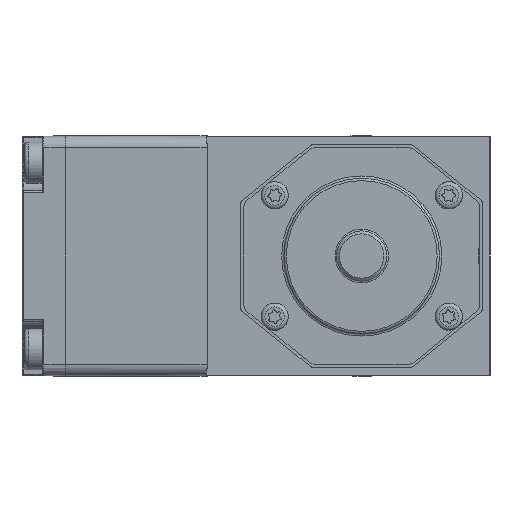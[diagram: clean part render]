
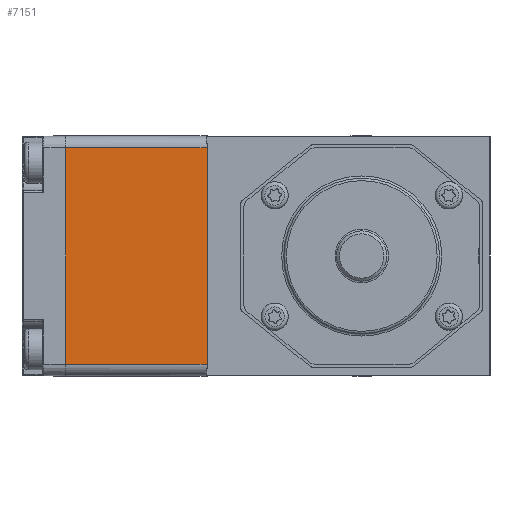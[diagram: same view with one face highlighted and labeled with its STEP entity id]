
A CAD part, left-side view. The second image highlights one B-rep face of the part: STEP entity #7151.
In plain terms, the highlighted planar face has unit normal (-1, 0, 0).
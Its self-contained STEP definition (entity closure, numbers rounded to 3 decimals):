
#2926 = VERTEX_POINT ( 'NONE', #6481 ) ;
#3767 = LINE ( 'NONE', #27675, #19655 ) ;
#4023 = VECTOR ( 'NONE', #12543, 1000. ) ;
#4638 = VECTOR ( 'NONE', #25391, 1000. ) ;
#5545 = CARTESIAN_POINT ( 'NONE',  ( -24.35, 38.1, 13.95 ) ) ;
#6481 = CARTESIAN_POINT ( 'NONE',  ( -24.35, 38.1, -13.95 ) ) ;
#6608 = EDGE_CURVE ( 'NONE', #13320, #10177, #3767, .T. ) ;
#7151 = ADVANCED_FACE ( 'NONE', ( #14576 ), #8381, .F. ) ;
#7651 = EDGE_CURVE ( 'NONE', #14836, #2926, #11492, .T. ) ;
#7706 = ORIENTED_EDGE ( 'NONE', *, *, #22198, .F. ) ;
#8381 = PLANE ( 'NONE',  #19990 ) ;
#8726 = ORIENTED_EDGE ( 'NONE', *, *, #6608, .F. ) ;
#10177 = VERTEX_POINT ( 'NONE', #19828 ) ;
#11072 = LINE ( 'NONE', #23226, #4638 ) ;
#11492 = LINE ( 'NONE', #23205, #21635 ) ;
#12543 = DIRECTION ( 'NONE',  ( 0., 1., 0. ) ) ;
#12711 = DIRECTION ( 'NONE',  ( 0., 1., 0. ) ) ;
#13320 = VERTEX_POINT ( 'NONE', #18993 ) ;
#14576 = FACE_OUTER_BOUND ( 'NONE', #15726, .T. ) ;
#14836 = VERTEX_POINT ( 'NONE', #5545 ) ;
#15510 = ORIENTED_EDGE ( 'NONE', *, *, #7651, .T. ) ;
#15726 = EDGE_LOOP ( 'NONE', ( #15510, #7706, #8726, #23749 ) ) ;
#18847 = DIRECTION ( 'NONE',  ( 0., 0., -1. ) ) ;
#18993 = CARTESIAN_POINT ( 'NONE',  ( -24.35, 19.9, 13.95 ) ) ;
#19655 = VECTOR ( 'NONE', #27767, 1000. ) ;
#19828 = CARTESIAN_POINT ( 'NONE',  ( -24.35, 19.9, -13.95 ) ) ;
#19990 = AXIS2_PLACEMENT_3D ( 'NONE', #23459, #25622, #12711 ) ;
#20581 = LINE ( 'NONE', #27632, #4023 ) ;
#21245 = EDGE_CURVE ( 'NONE', #13320, #14836, #20581, .T. ) ;
#21635 = VECTOR ( 'NONE', #18847, 1000. ) ;
#22198 = EDGE_CURVE ( 'NONE', #10177, #2926, #11072, .T. ) ;
#23205 = CARTESIAN_POINT ( 'NONE',  ( -24.35, 38.1, -15.45 ) ) ;
#23226 = CARTESIAN_POINT ( 'NONE',  ( -24.35, 19.9, -13.95 ) ) ;
#23459 = CARTESIAN_POINT ( 'NONE',  ( -24.35, 19.9, 13.95 ) ) ;
#23749 = ORIENTED_EDGE ( 'NONE', *, *, #21245, .T. ) ;
#25391 = DIRECTION ( 'NONE',  ( 0., 1., 0. ) ) ;
#25622 = DIRECTION ( 'NONE',  ( 1., 0., 0. ) ) ;
#27632 = CARTESIAN_POINT ( 'NONE',  ( -24.35, 19.9, 13.95 ) ) ;
#27675 = CARTESIAN_POINT ( 'NONE',  ( -24.35, 19.9, 13.95 ) ) ;
#27767 = DIRECTION ( 'NONE',  ( 0., 0., -1. ) ) ;
